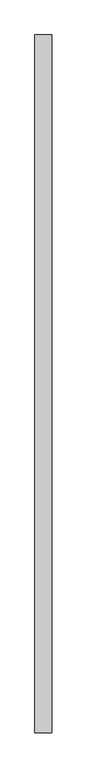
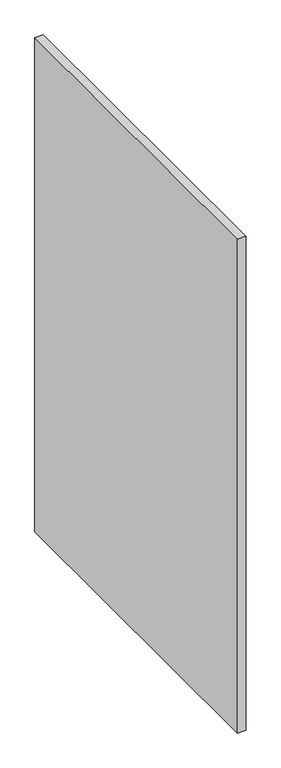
"""IFC4 building model written with IfcOpenShell, lengths in millimetres: furniture geometry, Divisoria_Lateral Fechada : Divisoria_Lateral Fechada_130x180."""

from ifc_helpers import new_model, si_unit, frame, origin, place, context, project, spatial, polyline, outline, extrude, source, transform, mapped, element, save


def furniture_e6c1f97e(model_context):
    return source(origin(), model_context, "Body", "SweptSolid", [
        extrude(outline(polyline([(59.7003264, 50.0), (59.7003264, -1194.8028426), (29.7003264, -1194.8028426), (29.7003264, 50.0), (59.7003264, 50.0)])), frame((0.0, 0.0, 50.0), z_axis=(0.0, 0.0, 1.0), x_axis=(1.0, 0.0, 0.0)), (0.0, 0.0, 1.0), 1850.0),
    ])


if __name__ == "__main__":
    model = new_model("IFC4")
    model_context = context("Model", 3, world=origin())
    ifc_project = project(units=[si_unit("LENGTHUNIT", "METRE", prefix="MILLI")], contexts=[model_context])
    site = spatial("IfcSite", under=ifc_project)
    building = spatial("IfcBuilding", under=site)
    placement = place(None, origin())
    furniture_shape = furniture_e6c1f97e(model_context)
    element("IfcFurniture", 1, ObjectType="Divisoria_Lateral Fechada : Divisoria_Lateral Fechada_130x180", at=placement, inside=building, context=model_context, shape_type="MappedRepresentation", body=[
        mapped(furniture_shape, transform((0.0, 0.0, 0.0), x_axis=(1.0, 0.0, 0.0), y_axis=(0.0, 1.0, 0.0), z_axis=(0.0, 0.0, 1.0))),
    ])
    save(model, "model.ifc")
